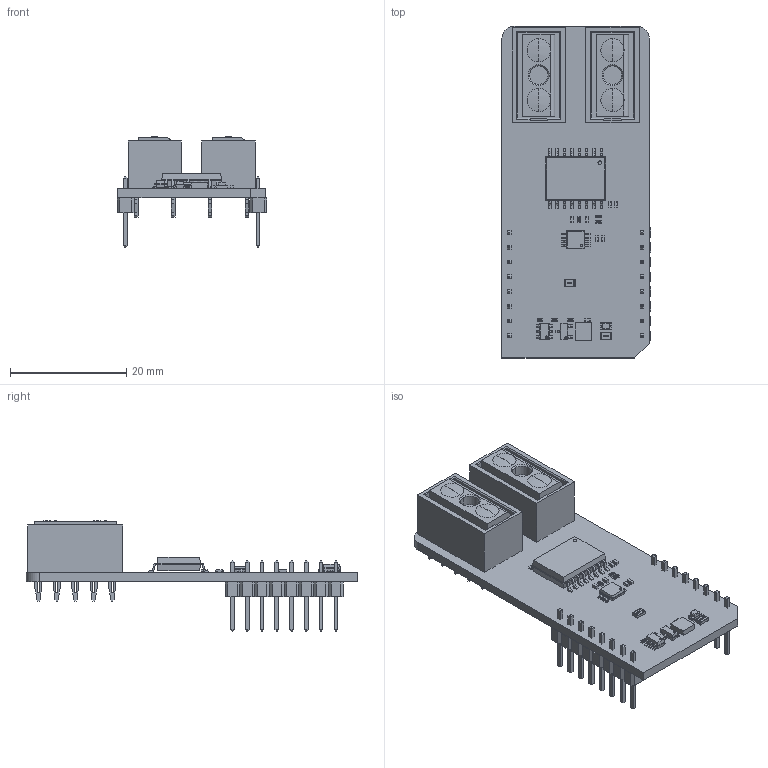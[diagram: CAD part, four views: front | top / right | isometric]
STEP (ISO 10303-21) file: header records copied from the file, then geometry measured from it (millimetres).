
FILE_DESCRIPTION(('Open CASCADE Model'),'2;1');
FILE_NAME('Open CASCADE Shape Model','2026-04-07T14:47:57',('Author'),( 'Open CASCADE'),'Open CASCADE STEP processor 7.5','Open CASCADE 7.5' ,'Unknown');
FILE_SCHEMA(('AUTOMOTIVE_DESIGN { 1 0 10303 214 1 1 1 1 }'));
Length unit declared in the file: millimetre
Products named in the file (48): PCB; Board; Open CASCADE STEP translator 7.5 1.1.1; MBD2; Header 1x8; Free-Models; 1240637040; User_Library-PinHeaderX5-1_PinHeaderX5_Body_1; User_Library-PinHeaderX5-1_PinHeaderX5_Pins_1; U3; DS1340C-33; U4; User Library-TSSOP-8 3_1x3_1; User Library-TSSOP-8 3.1x3.1_pin_TSSOP_tssop_1; User Library-TSSOP-8 3.1x3.1_body_TSSOP_TSSOP_3.1x3.1_1; R2; User Library-R_0402; C3; User Library-SMD CAPACITOR0402; C1; U2; User Library-SOT23-6-2; U1; 8646154832; Extruded; Q1; SOT23-3; R4; C5; R6; JP1; User Library-R_0805; LD1; led_0805_green; R1; R3; C2; C7; C6; IP+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
Assembly tree (69 placements, depth 7):
  PCB
    Board
      Open CASCADE STEP translator 7.5 1.1.1
    MBD2
      Header 1x8  x2
        PCB
          Free-Models
            1240637040  x2
              User_Library-PinHeaderX5-1_PinHeaderX5_Body_1
              User_Library-PinHeaderX5-1_PinHeaderX5_Pins_1
    U3
      DS1340C-33
    U4
      User Library-TSSOP-8 3_1x3_1
        User Library-TSSOP-8 3.1x3.1_pin_TSSOP_tssop_1  x8
        User Library-TSSOP-8 3.1x3.1_body_TSSOP_TSSOP_3.1x3.1_1
    R2
      User Library-R_0402
    C3
      User Library-SMD CAPACITOR0402
    C1
      User Library-SMD CAPACITOR0402
    U2
      User Library-SOT23-6-2
    U1
      8646154832
        Extruded
    Q1
      SOT23-3
    R4
      User Library-R_0402
    C5
      User Library-SMD CAPACITOR0402
    R6
      User Library-R_0402
    JP1
      User Library-R_0805
    LD1
      led_0805_green
    R1
      User Library-R_0805
    R3
      User Library-R_0402
    C2
      User Library-SMD CAPACITOR0402
    C7
      User Library-SMD CAPACITOR0402
    C6
      User Library-SMD CAPACITOR0402
    IP+
      Zpower molex 50A
        Open CASCADE STEP translator 7.5 1.21.1.1
        Open CASCADE STEP translator 7.5 1.21.1.2
    IP-
      Zpower molex 50A
        Open CASCADE STEP translator 7.5 1.21.1.1
        Open CASCADE STEP translator 7.5 1.21.1.2
    C4
      User Library-SMD CAPACITOR0402
    R5
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Bounding box: 25.78 x 57.15 x 19.06 mm (x, y, z)
Volume: 5259.3 mm3; surface area: 7785.5 mm2
Topology: 81 solids, 81 shells, 2554 faces, 6568 edges, 4272 vertices
Faces by surface type: plane 1929, cylinder 309, bspline 240, sphere 72, cone 4
Entity records: 40848 total; most frequent: CARTESIAN_POINT 10212, ORIENTED_EDGE 5546, DIRECTION 5215, EDGE_CURVE 2773, LINE 2293, VECTOR 2293, VERTEX_POINT 1798, AXIS2_PLACEMENT_3D 1461
